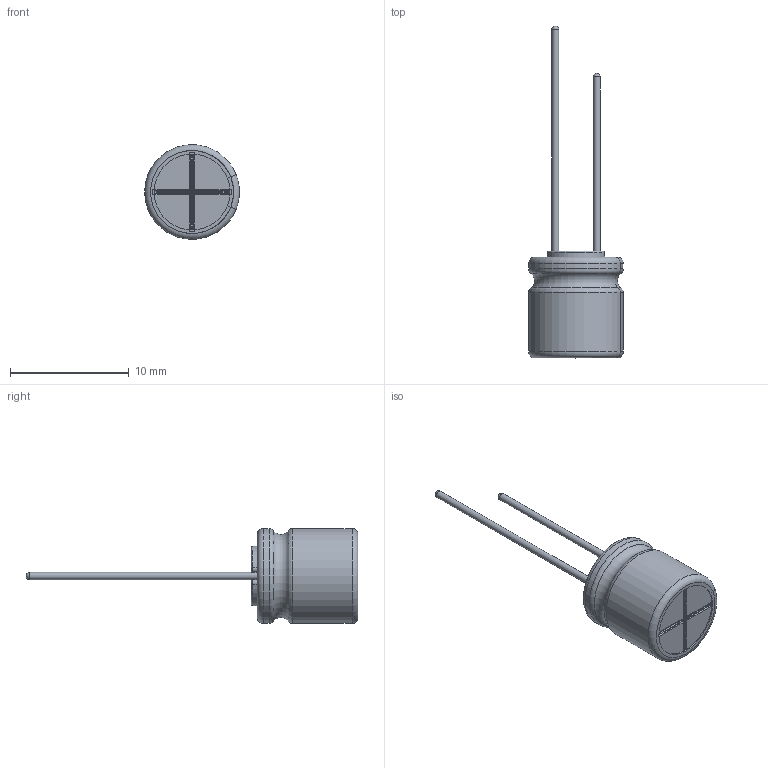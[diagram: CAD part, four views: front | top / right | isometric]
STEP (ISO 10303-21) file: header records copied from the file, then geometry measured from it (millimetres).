
FILE_DESCRIPTION(/* description */ (''),/* implementation_level */ '2;1');
FILE_NAME(/* name */ '8x9_Lead.stp',/* time_stamp */ '2017-09-05T13:53:24+09:00',/* author */ (''),/* organization */ (''),/* preprocessor_version */ 'ST-DEVELOPER v16',/* originating_system */ 'SIEMENS PLM Software NX 11.0',/* authorisation */ '');
FILE_SCHEMA (('AUTOMOTIVE_DESIGN { 1 0 10303 214 3 1 1 1 }'));
Length unit declared in the file: millimetre
Products named in the file (1): 8x9_Lead_0
Bounding box: 7.99 x 28 x 8 mm (x, y, z)
Volume: 425.6 mm3; surface area: 853.2 mm2
Topology: 3 solids, 3 shells, 115 faces, 288 edges, 181 vertices
Faces by surface type: cylinder 44, torus 33, plane 28, sphere 6, bspline 4
Full cylindrical faces by diameter (mm): 0.6 x2, 7.8 x2
Entity records: 4020 total; most frequent: CARTESIAN_POINT 680, DIRECTION 664, ORIENTED_EDGE 544, AXIS2_PLACEMENT_3D 280, EDGE_CURVE 272, VERTEX_POINT 176, CIRCLE 160, EDGE_LOOP 128
